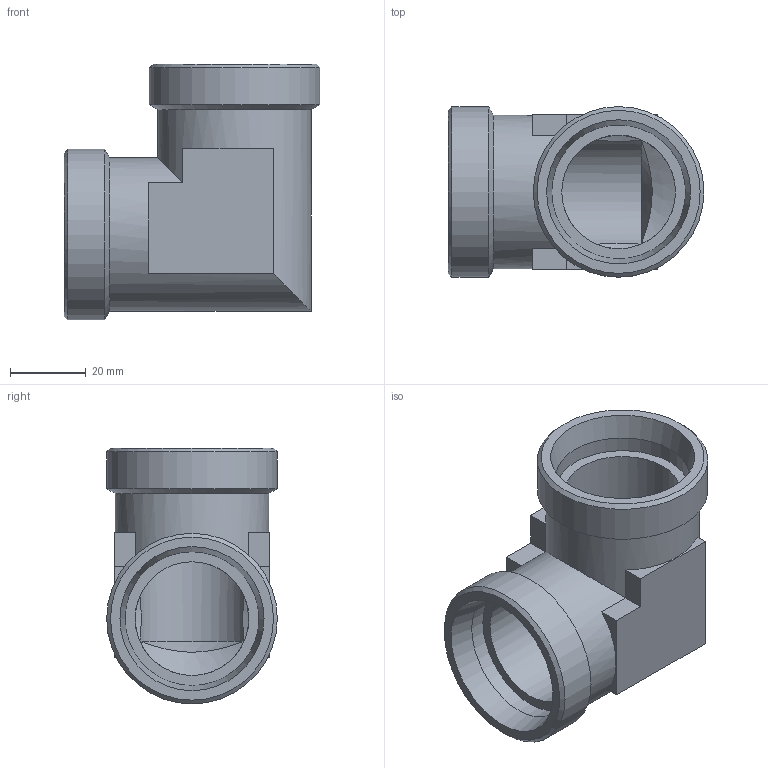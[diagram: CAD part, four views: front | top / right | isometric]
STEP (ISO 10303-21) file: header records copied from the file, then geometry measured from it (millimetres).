
FILE_DESCRIPTION( ( 'Unknown' ), '1' );
FILE_NAME( 'C:/Users/p.nanko/Desktop/3D SR/XW35L.stp', 'Unknown', ( 'Peter Nanko' ), ( 'Armaturen Arndt' ), 'PSStep 14.0', 'Solid Edge ST4', ' ' );
FILE_SCHEMA( ( 'AUTOMOTIVE_DESIGN { 1 0 10303 214 1 1 1 1 }' ) );
Length unit declared in the file: millimetre
Products named in the file (1): 1
Bounding box: 67.5 x 45 x 67.5 mm (x, y, z)
Volume: 55992.7 mm3; surface area: 22858.9 mm2
Topology: 1 solids, 1 shells, 42 faces, 90 edges, 52 vertices
Faces by surface type: plane 18, cylinder 12, cone 12
Full cylindrical faces by diameter (mm): 30 x2, 35.3 x2, 40.5 x2, 45 x2
Entity records: 1418 total; most frequent: CARTESIAN_POINT 224, DIRECTION 188, ORIENTED_EDGE 144, AXIS2_PLACEMENT_3D 78, EDGE_CURVE 72, EDGE_LOOP 60, FACE_OUTER_BOUND 50, VERTEX_POINT 48
